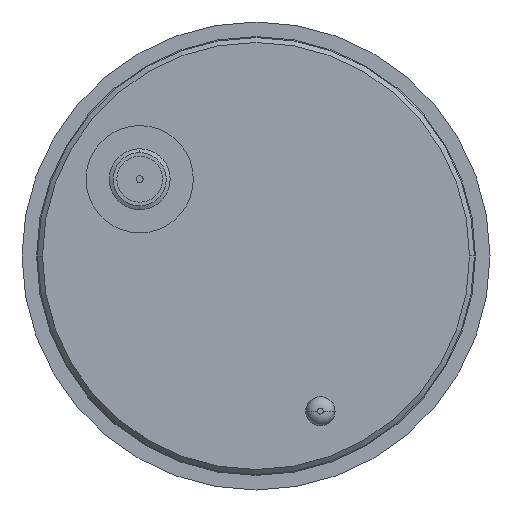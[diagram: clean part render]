
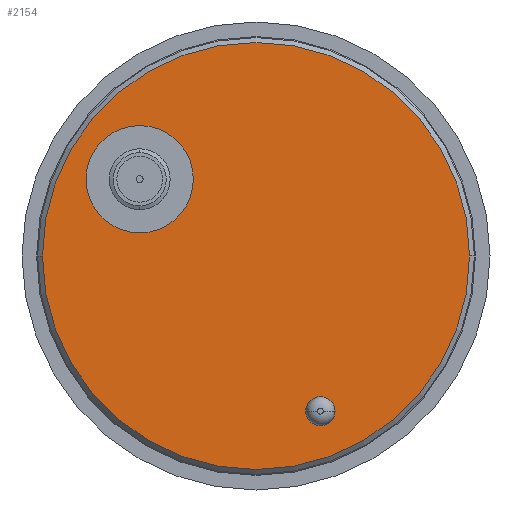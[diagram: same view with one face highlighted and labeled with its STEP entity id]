
A CAD part, front view. The second image highlights one B-rep face of the part: STEP entity #2154.
In plain terms, the highlighted planar face has unit normal (0, -1, 0).
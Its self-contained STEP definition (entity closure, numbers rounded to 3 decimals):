
#152 = VERTEX_POINT ( 'NONE', #486 ) ;
#153 = VERTEX_POINT ( 'NONE', #487 ) ;
#158 = VERTEX_POINT ( 'NONE', #492 ) ;
#159 = VERTEX_POINT ( 'NONE', #493 ) ;
#181 = VERTEX_POINT ( 'NONE', #515 ) ;
#189 = VERTEX_POINT ( 'NONE', #523 ) ;
#418 = EDGE_LOOP ( 'NONE', ( #649, #683 ) ) ;
#425 = EDGE_LOOP ( 'NONE', ( #679, #650 ) ) ;
#434 = EDGE_LOOP ( 'NONE', ( #682, #665 ) ) ;
#486 = CARTESIAN_POINT ( 'NONE',  ( 8.104, 0., -15.92 ) ) ;
#487 = CARTESIAN_POINT ( 'NONE',  ( 5.104, 0., -15.92 ) ) ;
#492 = CARTESIAN_POINT ( 'NONE',  ( -11.929, 0., 2.375 ) ) ;
#493 = CARTESIAN_POINT ( 'NONE',  ( -11.929, 0., 13.375 ) ) ;
#515 = CARTESIAN_POINT ( 'NONE',  ( -21.9, 0., 0. ) ) ;
#523 = CARTESIAN_POINT ( 'NONE',  ( 21.9, 0., 0. ) ) ;
#649 = ORIENTED_EDGE ( 'NONE', *, *, #1834, .F. ) ;
#650 = ORIENTED_EDGE ( 'NONE', *, *, #5308, .T. ) ;
#665 = ORIENTED_EDGE ( 'NONE', *, *, #5199, .T. ) ;
#679 = ORIENTED_EDGE ( 'NONE', *, *, #1892, .T. ) ;
#682 = ORIENTED_EDGE ( 'NONE', *, *, #1880, .T. ) ;
#683 = ORIENTED_EDGE ( 'NONE', *, *, #5196, .F. ) ;
#1067 = CIRCLE ( 'NONE', #1070, 21.9 ) ;
#1070 = AXIS2_PLACEMENT_3D ( 'NONE', #4731, #4732, #4733 ) ;
#1071 = CIRCLE ( 'NONE', #1074, 5.5 ) ;
#1074 = AXIS2_PLACEMENT_3D ( 'NONE', #4737, #4738, #4739 ) ;
#1107 = CIRCLE ( 'NONE', #1110, 1.5 ) ;
#1110 = AXIS2_PLACEMENT_3D ( 'NONE', #4817, #4818, #4819 ) ;
#1401 = CARTESIAN_POINT ( 'NONE',  ( 6.604, 0., -15.92 ) ) ;
#1402 = DIRECTION ( 'NONE',  ( 0., 1., 0. ) ) ;
#1403 = DIRECTION ( 'NONE',  ( -1., 0., 0. ) ) ;
#1600 = CARTESIAN_POINT ( 'NONE',  ( -11.929, 0., 7.875 ) ) ;
#1601 = DIRECTION ( 'NONE',  ( 0., 1., 0. ) ) ;
#1602 = DIRECTION ( 'NONE',  ( 0., 0., 1. ) ) ;
#1834 = EDGE_CURVE ( 'NONE', #181, #189, #3024, .T. ) ;
#1880 = EDGE_CURVE ( 'NONE', #158, #159, #2990, .T. ) ;
#1892 = EDGE_CURVE ( 'NONE', #153, #152, #2940, .T. ) ;
#2154 = ADVANCED_FACE ( 'NONE', ( #3783, #3788, #3765 ), #3782, .F. ) ;
#2564 = CARTESIAN_POINT ( 'NONE',  ( 0., 0., 0. ) ) ;
#2565 = DIRECTION ( 'NONE',  ( 0., 1., 0. ) ) ;
#2566 = DIRECTION ( 'NONE',  ( -1., 0., 0. ) ) ;
#2624 = AXIS2_PLACEMENT_3D ( 'NONE', #1401, #1402, #1403 ) ;
#2940 = CIRCLE ( 'NONE', #2624, 1.5 ) ;
#2990 = CIRCLE ( 'NONE', #3049, 5.5 ) ;
#3015 = AXIS2_PLACEMENT_3D ( 'NONE', #2564, #2565, #2566 ) ;
#3024 = CIRCLE ( 'NONE', #3015, 21.9 ) ;
#3049 = AXIS2_PLACEMENT_3D ( 'NONE', #1600, #1601, #1602 ) ;
#3104 = AXIS2_PLACEMENT_3D ( 'NONE', #3787, #3789, #3790 ) ;
#3765 = FACE_BOUND ( 'NONE', #434, .T. ) ;
#3782 = PLANE ( 'NONE',  #3104 ) ;
#3783 = FACE_BOUND ( 'NONE', #425, .T. ) ;
#3787 = CARTESIAN_POINT ( 'NONE',  ( -5.237, 0., 0. ) ) ;
#3788 = FACE_OUTER_BOUND ( 'NONE', #418, .T. ) ;
#3789 = DIRECTION ( 'NONE',  ( 0., 1., 0. ) ) ;
#3790 = DIRECTION ( 'NONE',  ( -1., 0., 0. ) ) ;
#4731 = CARTESIAN_POINT ( 'NONE',  ( 0., 0., 0. ) ) ;
#4732 = DIRECTION ( 'NONE',  ( 0., 1., 0. ) ) ;
#4733 = DIRECTION ( 'NONE',  ( -1., 0., 0. ) ) ;
#4737 = CARTESIAN_POINT ( 'NONE',  ( -11.929, 0., 7.875 ) ) ;
#4738 = DIRECTION ( 'NONE',  ( 0., 1., 0. ) ) ;
#4739 = DIRECTION ( 'NONE',  ( 0., 0., 1. ) ) ;
#4817 = CARTESIAN_POINT ( 'NONE',  ( 6.604, 0., -15.92 ) ) ;
#4818 = DIRECTION ( 'NONE',  ( 0., 1., 0. ) ) ;
#4819 = DIRECTION ( 'NONE',  ( -1., 0., 0. ) ) ;
#5196 = EDGE_CURVE ( 'NONE', #189, #181, #1067, .T. ) ;
#5199 = EDGE_CURVE ( 'NONE', #159, #158, #1071, .T. ) ;
#5308 = EDGE_CURVE ( 'NONE', #152, #153, #1107, .T. ) ;
